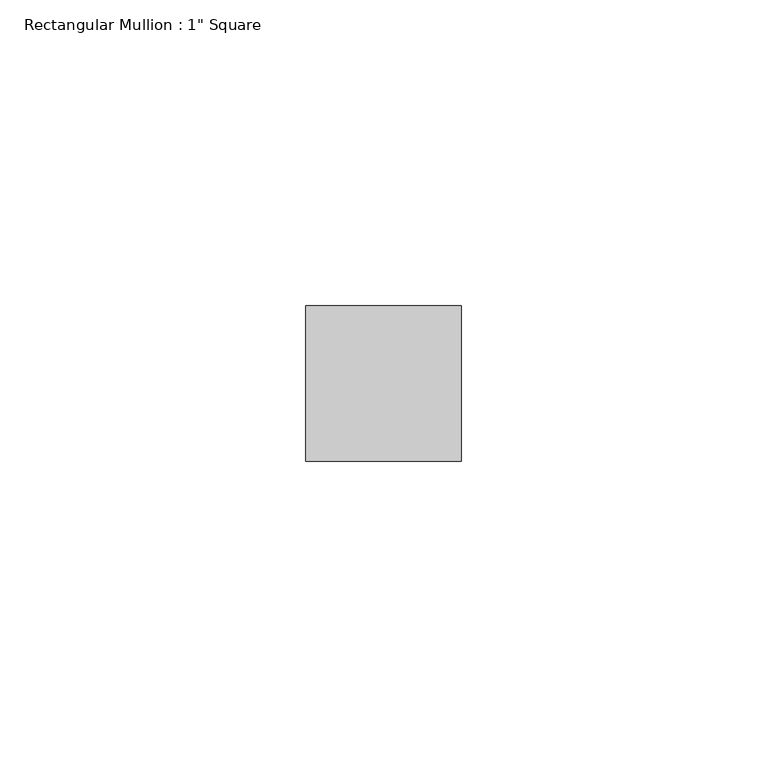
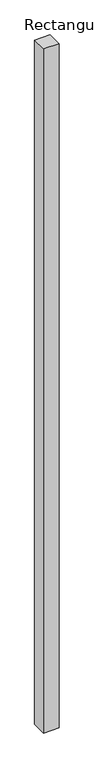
"""IFC4 building model written with IfcOpenShell, lengths in millimetres: member geometry."""

from ifc_helpers import new_model, si_unit, frame, origin, place, context, project, spatial, polyline, outline, extrude, source, transform, mapped, element, save


def member_8c0c7285(model_context):
    return source(origin(), model_context, "Body", "SweptSolid", [
        extrude(outline(polyline([(12.7, 12.7), (12.7, -12.7), (-12.7, -12.7), (-12.7, 12.7), (12.7, 12.7)])), frame((0.0, 0.0, -1194.4252248), z_axis=(0.0, 0.0, 1.0), x_axis=(1.0, 0.0, 0.0)), (0.0, 0.0, 1.0), 1194.4252248),
    ])


if __name__ == "__main__":
    model = new_model("IFC4")
    model_context = context("Model", 3, world=origin())
    ifc_project = project(units=[si_unit("LENGTHUNIT", "METRE", prefix="MILLI")], contexts=[model_context])
    site = spatial("IfcSite", under=ifc_project)
    building = spatial("IfcBuilding", under=site)
    placement = place(None, origin())
    member_shape = member_8c0c7285(model_context)
    element("IfcMember", 1, ObjectType="Rectangular Mullion : 1\" Square", at=placement, inside=building, context=model_context, shape_type="MappedRepresentation", body=[
        mapped(member_shape, transform((0.0, 0.0, 0.0), x_axis=(1.0, 0.0, 0.0), y_axis=(0.0, 1.0, 0.0), z_axis=(0.0, 0.0, 1.0))),
    ])
    save(model, "model.ifc")
